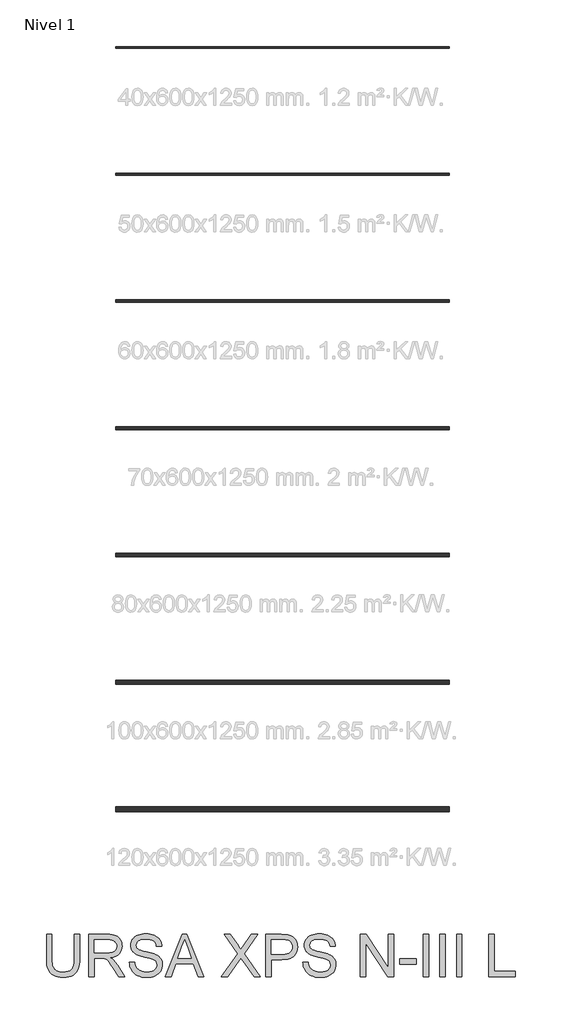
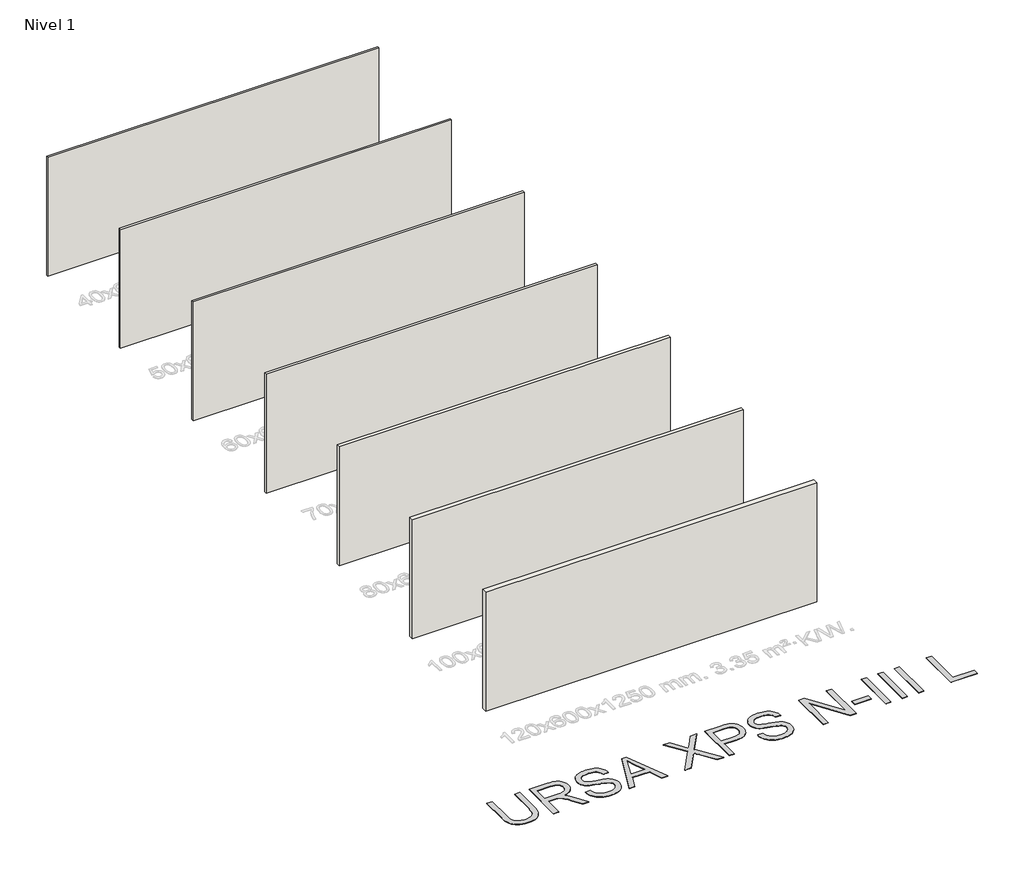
# One storey, part 1 of 8: 7 walls, 1 proxy.
"""IFC4 building model written with IfcOpenShell, lengths in millimetres."""

from ifc_helpers import new_model, si_unit, origin, origin_with_axes, place, context, project, spatial, polyline, outline, extrude, element, save

model = new_model("IFC4")

# Units and contexts
model_context = context("Model", 3, world=origin())
ifc_project = project(units=[si_unit("LENGTHUNIT", "METRE", prefix="MILLI")], contexts=[model_context])

# Site, building, storey
site = spatial("IfcSite", under=ifc_project)
building = spatial("IfcBuilding", under=site)
storey = spatial("IfcBuildingStorey", under=building, Name="Nivel 1", Elevation=0.0)

# Proxy
placement = place(None, origin())
element("IfcBuildingElementProxy", 1, Name="Texto de modelo 2", ObjectType="Texto de modelo 2", at=placement, inside=storey, context=model_context, shape_type="SweptSolid", body=[
    extrude(outline(polyline([(-7512.76778, -17041.8387308), (-7387.1973923, -17041.8387308), (-7387.1973923, -17621.3755006), (-7389.3280422, -17693.1354823), (-7395.7199918, -17757.0933), (-7406.3732413, -17813.2489537), (-7421.2877905, -17861.6024434), (-7441.7512265, -17903.985515), (-7469.0511362, -17942.229914), (-7503.1875197, -17976.3356407), (-7544.1603769, -18006.3026949), (-7592.0156931, -18030.7131981), (-7646.7994535, -18048.1492718), (-7708.5116582, -18058.6109161), (-7777.1523072, -18062.0981308), (-7844.0991661, -18059.0631043), (-7904.6540753, -18049.958025), (-7958.8170349, -18034.7828927), (-8006.5880448, -18013.5377074), (-8047.9747693, -17986.5367018), (-8082.9848725, -17954.0941084), (-8111.6183544, -17916.2099271), (-8133.8752152, -17872.8841579), (-8150.5601965, -17822.6299446), (-8162.4780403, -17763.9604305), (-8169.6287466, -17696.8756159), (-8172.0123153, -17621.3755006), (-8172.0123153, -17041.8387308), (-8046.4419276, -17041.8387308), (-8046.4419276, -17616.9609166), (-8044.8937576, -17677.66911), (-8040.2492474, -17729.8087187), (-8032.5083971, -17773.3797425), (-8021.6712066, -17808.3821815), (-8007.0632257, -17837.3452244), (-7988.0100041, -17862.7980599), (-7964.5115416, -17884.7406881), (-7936.5678384, -17903.1731089), (-7904.715389, -17917.7657614), (-7869.490688, -17928.1890846), (-7830.8937353, -17934.4430785), (-7788.924531, -17936.5277431), (-7719.7167307, -17932.4043991), (-7661.208165, -17920.034367), (-7613.3988341, -17899.4176468), (-7593.5063816, -17886.0167788), (-7576.2887378, -17870.5542386), (-7561.4010133, -17852.1601389), (-7548.4983187, -17829.9645918), (-7528.6480194, -17774.1691559), (-7516.7378398, -17703.1679308), (-7512.76778, -17616.9609166), (-7512.76778, -17041.8387308)])), origin_with_axes(), (0.0, 0.0, 1.0), 10.0),
    extrude(outline(polyline([(-7167.4492138, -18046.4018323), (-7167.4492138, -17041.8387308), (-6734.5747328, -17041.8387308), (-6672.4409967, -17043.5325209), (-6618.2320519, -17048.6138909), (-6571.9478983, -17057.082841), (-6533.5885361, -17068.9393712), (-6500.9236806, -17085.0955221), (-6471.7230473, -17106.4633347), (-6445.986636, -17133.0428088), (-6423.7144469, -17164.8339446), (-6405.7418786, -17200.1276235), (-6392.9043298, -17237.2147271), (-6385.2018005, -17276.0952555), (-6382.6342908, -17316.7692086), (-6386.8879263, -17368.3646584), (-6399.6488331, -17415.7294653), (-6420.9170109, -17458.8636292), (-6450.6924599, -17497.7671502), (-6489.3583904, -17531.1984265), (-6537.2980129, -17557.9158564), (-6594.5113274, -17577.9194399), (-6660.9983338, -17591.209177), (-6619.6116093, -17618.2485036), (-6589.6292267, -17644.9199483), (-6538.1870611, -17705.9270458), (-6487.8485414, -17774.1691559), (-6320.3396063, -18046.4018323), (-6466.266131, -18046.4018323), (-6596.9868666, -17838.1806231), (-6649.2874236, -17758.7181121), (-6691.4099121, -17700.3475022), (-6726.5119858, -17660.1563942), (-6757.7512985, -17635.2323891), (-6787.3351423, -17620.6090798), (-6817.4708091, -17611.3200594), (-6890.3114441, -17606.9054754), (-7041.8788261, -17606.9054754), (-7041.8788261, -18046.4018323), (-7167.4492138, -18046.4018323)]), holes=[polyline([(-7041.8788261, -17481.3350877), (-6760.8169818, -17481.3350877), (-6680.0975407, -17476.889847), (-6617.465631, -17463.5541246), (-6592.2810428, -17453.3300709), (-6570.315422, -17440.4388726), (-6551.5687686, -17424.8805299), (-6536.0410828, -17406.6550427), (-6523.8626559, -17386.6591234), (-6515.1637795, -17365.7894844), (-6509.9444537, -17344.0461257), (-6508.2046785, -17321.4290472), (-6511.5232806, -17289.3160147), (-6521.4790871, -17260.176695), (-6538.072098, -17234.0110881), (-6561.3023131, -17210.819194), (-6591.7062272, -17191.827286), (-6629.8203347, -17178.2616374), (-6675.6446357, -17170.1222482), (-6729.1791302, -17167.4091185), (-7041.8788261, -17167.4091185), (-7041.8788261, -17481.3350877)])]), origin_with_axes(), (0.0, 0.0, 1.0), 10.0),
    extrude(outline(polyline([(-6209.9750077, -17701.0832662), (-6084.40462, -17701.0832662), (-6078.6564638, -17737.6338753), (-6069.9959085, -17770.7662475), (-6058.4229541, -17800.4803828), (-6043.9376006, -17826.7762812), (-6025.8040839, -17850.1827732), (-6003.2866401, -17871.228689), (-5976.3852692, -17889.9140286), (-5945.0999712, -17906.2387922), (-5910.5803773, -17919.4902082), (-5873.9761188, -17928.9555054), (-5835.2871956, -17934.6346837), (-5794.5136078, -17936.5277431), (-5724.5547151, -17930.7949154), (-5692.8402214, -17923.6288807), (-5663.3023629, -17913.5964321), (-5636.6692393, -17901.0577874), (-5613.6689504, -17886.3731644), (-5594.3014962, -17869.5425632), (-5578.5668767, -17850.5659836), (-5566.3884498, -17830.263496), (-5557.6895734, -17809.4551706), (-5552.4702476, -17788.1410075), (-5550.7304724, -17766.3210067), (-5555.942134, -17724.2904887), (-5571.5771187, -17687.9621417), (-5584.7289001, -17671.8443118), (-5603.3375977, -17656.9680836), (-5627.4032115, -17643.3334572), (-5656.9257416, -17630.9404325), (-5723.2364713, -17611.2280889), (-5839.7630932, -17582.9931457), (-5959.7845942, -17551.2633237), (-6003.5855442, -17535.9732282), (-6036.5799607, -17521.0663432), (-6070.1108717, -17501.0627597), (-6099.089243, -17478.8212274), (-6123.5150746, -17454.3417463), (-6143.3883666, -17427.6243164), (-6158.7857609, -17398.9448492), (-6169.7838997, -17368.5792562), (-6176.382783, -17336.5275374), (-6178.5824108, -17302.7896928), (-6175.8616169, -17265.3960208), (-6167.6992351, -17229.2439506), (-6154.0952655, -17194.333482), (-6135.049708, -17160.6646153), (-6110.7771606, -17129.6092435), (-6081.4922209, -17102.53926), (-6047.1948891, -17079.4546648), (-6007.885165, -17060.3554579), (-5964.8889568, -17045.3872593), (-5919.5321725, -17034.6956888), (-5871.8148121, -17028.2807465), (-5821.7368755, -17026.1424324), (-5767.1063992, -17028.3803812), (-5715.7868609, -17035.0942276), (-5667.7782605, -17046.2839716), (-5623.0805981, -17061.9496132), (-5582.5216081, -17081.9531967), (-5546.9290251, -17106.1567663), (-5516.302849, -17134.560322), (-5490.6430798, -17167.1638639), (-5470.148987, -17203.01703), (-5455.0198399, -17241.1694586), (-5445.2556387, -17281.6211496), (-5440.8563831, -17324.3721031), (-5566.4267708, -17324.3721031), (-5574.826743, -17284.3036225), (-5589.4807092, -17249.4468035), (-5610.3886692, -17219.801646), (-5637.5506232, -17195.3681502), (-5671.4724089, -17176.2689432), (-5712.6598639, -17162.6266526), (-5761.1129883, -17154.4412782), (-5816.8317822, -17151.7128201), (-5874.3286724, -17154.4106214), (-5923.4562471, -17162.5040253), (-5964.2145065, -17175.9930317), (-5996.6034505, -17194.8776408), (-6021.282201, -17217.5790256), (-6038.90988, -17242.5183592), (-6049.4864873, -17269.6956416), (-6053.0120231, -17299.1108728), (-6050.5134912, -17324.4180884), (-6043.0178956, -17347.3647278), (-6030.5252361, -17367.9507911), (-6013.035513, -17386.1762783), (-5985.505677, -17403.4360753), (-5942.1569152, -17420.8798132), (-5882.9892277, -17438.5074921), (-5808.0026143, -17456.3191121), (-5669.5563568, -17489.9803146), (-5620.8426493, -17505.2014322), (-5585.8018892, -17519.3495606), (-5547.3045713, -17540.7940152), (-5514.2181843, -17564.9056143), (-5486.5427284, -17591.6843579), (-5464.2782035, -17621.1302459), (-5447.1640265, -17653.0899942), (-5434.9396144, -17687.4103187), (-5427.6049671, -17724.0912193), (-5425.1600847, -17763.1326961), (-5427.9728491, -17802.4117632), (-5436.4111424, -17840.5411992), (-5450.4749645, -17877.5210039), (-5470.1643154, -17913.3511774), (-5495.1343058, -17946.644498), (-5525.0400464, -17976.0137439), (-5559.881537, -18001.4589153), (-5599.6587777, -18022.980012), (-5643.2144731, -18040.094189), (-5689.3913277, -18052.3186011), (-5738.1893415, -18059.6532484), (-5789.6085146, -18062.0981308), (-5853.8422438, -18059.4616432), (-5912.6343851, -18051.5521803), (-5965.9849386, -18038.3697421), (-6013.8939043, -18019.9143287), (-6056.652522, -17996.1552832), (-6094.5520317, -17967.0619487), (-6127.5924334, -17932.6343253), (-6155.7737271, -17892.872413), (-6178.4751119, -17849.0637988), (-6195.0757869, -17802.4960695), (-6205.5757522, -17753.1692253), (-6209.9750077, -17701.0832662)])), origin_with_axes(), (0.0, 0.0, 1.0), 10.0),
    extrude(outline(polyline([(-5353.7909776, -18046.4018323), (-4952.7996029, -17041.8387308), (-4845.8685696, -17041.8387308), (-4444.8771949, -18046.4018323), (-4577.5599678, -18046.4018323), (-4692.5844049, -17732.4758631), (-5106.3290222, -17732.4758631), (-5221.1082047, -18046.4018323), (-5353.7909776, -18046.4018323)]), holes=[polyline([(-5060.2211455, -17606.9054754), (-4738.447027, -17606.9054754), (-4828.9459978, -17359.9340293), (-4899.3340862, -17167.4091185), (-4961.8740254, -17338.351619), (-5060.2211455, -17606.9054754)])]), origin_with_axes(), (0.0, 0.0, 1.0), 10.0),
    extrude(outline(polyline([(-4028.1895216, -18046.4018323), (-3640.9324081, -17498.9934235), (-3965.4043278, -17041.8387308), (-3814.8179644, -17041.8387308), (-3632.1032402, -17299.1108728), (-3588.5092237, -17364.2872996), (-3570.5443196, -17399.4200302), (-3498.4394486, -17297.3940902), (-3317.6867616, -17041.8387308), (-3164.8931063, -17041.8387308), (-3489.365026, -17500.4649515), (-3102.1079125, -18046.4018323), (-3252.6942758, -18046.4018323), (-3510.7021818, -17682.4439118), (-3564.4129531, -17606.9054754), (-3623.519327, -17689.8015517), (-3875.3958663, -18046.4018323), (-4028.1895216, -18046.4018323)])), origin_with_axes(), (0.0, 0.0, 1.0), 10.0),
    extrude(outline(polyline([(-2976.5375248, -18046.4018323), (-2976.5375248, -17041.8387308), (-2604.2409457, -17041.8387308), (-2517.5434221, -17044.2299638), (-2454.1450916, -17051.4036627), (-2419.2039663, -17058.9375794), (-2387.2212253, -17069.2765963), (-2358.1968688, -17082.4207134), (-2332.1308966, -17098.3699308), (-2308.7473972, -17117.4538093), (-2287.7704593, -17140.0019099), (-2269.2000828, -17166.0142326), (-2253.0362676, -17195.4907775), (-2239.9457999, -17227.45819), (-2230.5954659, -17260.9431158), (-2224.9852655, -17295.9455548), (-2223.1151986, -17332.465507), (-2228.1659119, -17394.1317265), (-2243.3180515, -17450.8621958), (-2268.5716177, -17502.656915), (-2303.9266103, -17549.5158842), (-2326.1623944, -17570.3242095), (-2352.464041, -17588.3580915), (-2382.8315501, -17603.6175301), (-2417.2649216, -17616.1025253), (-2455.7641556, -17625.8130771), (-2498.3292521, -17632.7491856), (-2595.6570324, -17638.2980724), (-2850.9671371, -17638.2980724), (-2850.9671371, -18046.4018323), (-2976.5375248, -18046.4018323)]), holes=[polyline([(-2850.9671371, -17512.7276847), (-2588.2993925, -17512.7276847), (-2527.9054317, -17509.8459424), (-2476.9537753, -17501.2007155), (-2435.4444235, -17486.792004), (-2403.3773763, -17466.6198079), (-2379.4497182, -17441.2206219), (-2362.3585338, -17411.1309403), (-2352.1038232, -17376.3507634), (-2348.6855863, -17336.880091), (-2350.7012731, -17307.5721587), (-2356.7483334, -17280.4715184), (-2366.8267672, -17255.57817), (-2380.9365746, -17232.8921137), (-2398.3266631, -17213.1491133), (-2418.2459403, -17197.0849328), (-2440.6944062, -17184.6995723), (-2465.6720608, -17175.9930317), (-2514.1098568, -17169.5550968), (-2591.2424485, -17167.4091185), (-2850.9671371, -17167.4091185), (-2850.9671371, -17512.7276847)])]), origin_with_axes(), (0.0, 0.0, 1.0), 10.0),
    extrude(outline(polyline([(-2097.544811, -17701.0832662), (-1971.9744233, -17701.0832662), (-1966.2262671, -17737.6338753), (-1957.5657118, -17770.7662475), (-1945.9927574, -17800.4803828), (-1931.5074038, -17826.7762812), (-1913.3738871, -17850.1827732), (-1890.8564433, -17871.228689), (-1863.9550724, -17889.9140286), (-1832.6697744, -17906.2387922), (-1798.1501806, -17919.4902082), (-1761.545922, -17928.9555054), (-1722.8569989, -17934.6346837), (-1682.0834111, -17936.5277431), (-1612.1245183, -17930.7949154), (-1580.4100247, -17923.6288807), (-1550.8721661, -17913.5964321), (-1524.2390425, -17901.0577874), (-1501.2387536, -17886.3731644), (-1481.8712994, -17869.5425632), (-1466.1366799, -17850.5659836), (-1453.958253, -17830.263496), (-1445.2593767, -17809.4551706), (-1440.0400509, -17788.1410075), (-1438.3002756, -17766.3210067), (-1443.5119372, -17724.2904887), (-1459.146922, -17687.9621417), (-1472.2987033, -17671.8443118), (-1490.9074009, -17656.9680836), (-1514.9730148, -17643.3334572), (-1544.4955449, -17630.9404325), (-1610.8062745, -17611.2280889), (-1727.3328965, -17582.9931457), (-1847.3543974, -17551.2633237), (-1891.1553475, -17535.9732282), (-1924.1497639, -17521.0663432), (-1957.6806749, -17501.0627597), (-1986.6590462, -17478.8212274), (-2011.0848779, -17454.3417463), (-2030.9581698, -17427.6243164), (-2046.3555642, -17398.9448492), (-2057.353703, -17368.5792562), (-2063.9525863, -17336.5275374), (-2066.152214, -17302.7896928), (-2063.4314201, -17265.3960208), (-2055.2690383, -17229.2439506), (-2041.6650687, -17194.333482), (-2022.6195113, -17160.6646153), (-1998.3469638, -17129.6092435), (-1969.0620241, -17102.53926), (-1934.7646923, -17079.4546648), (-1895.4549683, -17060.3554579), (-1852.4587601, -17045.3872593), (-1807.1019758, -17034.6956888), (-1759.3846153, -17028.2807465), (-1709.3066787, -17026.1424324), (-1654.6762024, -17028.3803812), (-1603.3566641, -17035.0942276), (-1555.3480637, -17046.2839716), (-1510.6504013, -17061.9496132), (-1470.0914114, -17081.9531967), (-1434.4988283, -17106.1567663), (-1403.8726522, -17134.560322), (-1378.2128831, -17167.1638639), (-1357.7187902, -17203.01703), (-1342.5896432, -17241.1694586), (-1332.8254419, -17281.6211496), (-1328.4261864, -17324.3721031), (-1453.9965741, -17324.3721031), (-1462.3965463, -17284.3036225), (-1477.0505124, -17249.4468035), (-1497.9584725, -17219.801646), (-1525.1204265, -17195.3681502), (-1559.0422121, -17176.2689432), (-1600.2296671, -17162.6266526), (-1648.6827916, -17154.4412782), (-1704.4015854, -17151.7128201), (-1761.8984756, -17154.4106214), (-1811.0260504, -17162.5040253), (-1851.7843098, -17175.9930317), (-1884.1732538, -17194.8776408), (-1908.8520043, -17217.5790256), (-1926.4796832, -17242.5183592), (-1937.0562906, -17269.6956416), (-1940.5818264, -17299.1108728), (-1938.0832945, -17324.4180884), (-1930.5876988, -17347.3647278), (-1918.0950394, -17367.9507911), (-1900.6053162, -17386.1762783), (-1873.0754802, -17403.4360753), (-1829.7267185, -17420.8798132), (-1770.5590309, -17438.5074921), (-1695.5724176, -17456.3191121), (-1557.12616, -17489.9803146), (-1508.4124525, -17505.2014322), (-1473.3716925, -17519.3495606), (-1434.8743745, -17540.7940152), (-1401.7879876, -17564.9056143), (-1374.1125317, -17591.6843579), (-1351.8480067, -17621.1302459), (-1334.7338298, -17653.0899942), (-1322.5094176, -17687.4103187), (-1315.1747703, -17724.0912193), (-1312.7298879, -17763.1326961), (-1315.5426523, -17802.4117632), (-1323.9809456, -17840.5411992), (-1338.0447677, -17877.5210039), (-1357.7341187, -17913.3511774), (-1382.7041091, -17946.644498), (-1412.6098496, -17976.0137439), (-1447.4513402, -18001.4589153), (-1487.228581, -18022.980012), (-1530.7842763, -18040.094189), (-1576.961131, -18052.3186011), (-1625.7591448, -18059.6532484), (-1677.1783178, -18062.0981308), (-1741.412047, -18059.4616432), (-1800.2041884, -18051.5521803), (-1853.5547419, -18038.3697421), (-1901.4637075, -18019.9143287), (-1944.2223253, -17996.1552832), (-1982.121835, -17967.0619487), (-2015.1622367, -17932.6343253), (-2043.3435303, -17892.872413), (-2066.0449151, -17849.0637988), (-2082.6455902, -17802.4960695), (-2093.1455554, -17753.1692253), (-2097.544811, -17701.0832662)])), origin_with_axes(), (0.0, 0.0, 1.0), 10.0),
    extrude(outline(polyline([(-731.9668449, -18046.4018323), (-731.9668449, -17041.8387308), (-597.5672893, -17041.8387308), (-72.7223095, -17837.6901137), (-72.7223095, -17041.8387308), (52.8480782, -17041.8387308), (52.8480782, -18046.4018323), (-81.5514774, -18046.4018323), (-606.3964572, -17250.3051948), (-606.3964572, -18046.4018323), (-731.9668449, -18046.4018323)])), origin_with_axes(), (0.0, 0.0, 1.0), 10.0),
    extrude(outline(polyline([(194.1147643, -17748.1721616), (194.1147643, -17622.6017739), (586.5222258, -17622.6017739), (586.5222258, -17748.1721616), (194.1147643, -17748.1721616)])), origin_with_axes(), (0.0, 0.0, 1.0), 10.0),
    extrude(outline(polyline([(759.1815089, -18046.4018323), (759.1815089, -17041.8387308), (884.7518966, -17041.8387308), (884.7518966, -18046.4018323), (759.1815089, -18046.4018323)])), origin_with_axes(), (0.0, 0.0, 1.0), 10.0),
    extrude(outline(polyline([(1151.5889704, -18046.4018323), (1151.5889704, -17041.8387308), (1277.1593581, -17041.8387308), (1277.1593581, -18046.4018323), (1151.5889704, -18046.4018323)])), origin_with_axes(), (0.0, 0.0, 1.0), 10.0),
    extrude(outline(polyline([(1543.996432, -18046.4018323), (1543.996432, -17041.8387308), (1669.5668196, -17041.8387308), (1669.5668196, -18046.4018323), (1543.996432, -18046.4018323)])), origin_with_axes(), (0.0, 0.0, 1.0), 10.0),
    extrude(outline(polyline([(2313.1150565, -18046.4018323), (2313.1150565, -17041.8387308), (2438.6854442, -17041.8387308), (2438.6854442, -17920.8314446), (2940.966995, -17920.8314446), (2940.966995, -18046.4018323), (2313.1150565, -18046.4018323)])), origin_with_axes(), (0.0, 0.0, 1.0), 10.0),
])

# Walls
element("IfcWall", 2, ObjectType="Panel de poliestireno extruido, URSA XPS N-III L de URSA. 40x600x1250 mm. 1.2 m²·K/W. De superficie lisa y mecanizado lateral a media madera. En panel.", at=placement, inside=storey, context=model_context, shape_type="SweptSolid", body=[
    extrude(outline(polyline([(1368.7582768, 3960.3831431), (-6531.2417232, 3960.3831431), (-6531.2417232, 4000.3831431), (1368.7582768, 4000.3831431), (1368.7582768, 3960.3831431)])), origin_with_axes(), (0.0, 0.0, 1.0), 3000.0),
])
element("IfcWall", 3, ObjectType="Panel de poliestireno extruido, URSA XPS N-III L de URSA. 50x600x1250 mm. 1.5 m²·K/W. De superficie lisa y mecanizado lateral a media madera. En panel.", at=placement, inside=storey, context=model_context, shape_type="SweptSolid", body=[
    extrude(outline(polyline([(1368.7582768, 950.3831431), (-6531.2417232, 950.3831431), (-6531.2417232, 1000.3831431), (1368.7582768, 1000.3831431), (1368.7582768, 950.3831431)])), origin_with_axes(), (0.0, 0.0, 1.0), 3000.0),
])
element("IfcWall", 4, ObjectType="Panel de poliestireno extruido, URSA XPS N-III L de URSA. 60x600x1250 mm. 1.8 m²·K/W. De superficie lisa y mecanizado lateral a media madera. En panel.", at=placement, inside=storey, context=model_context, shape_type="SweptSolid", body=[
    extrude(outline(polyline([(1368.7582768, -2063.6168569), (-6531.2417232, -2063.6168569), (-6531.2417232, -2003.6168569), (1368.7582768, -2003.6168569), (1368.7582768, -2063.6168569)])), origin_with_axes(), (0.0, 0.0, 1.0), 3000.0),
])
element("IfcWall", 5, ObjectType="Panel de poliestireno extruido, URSA XPS N-III L de URSA. 70x600x1250 mm. 2 m²·K/W. De superficie lisa y mecanizado lateral a media madera. En panel.", at=placement, inside=storey, context=model_context, shape_type="SweptSolid", body=[
    extrude(outline(polyline([(1368.7582768, -5077.6168569), (-6531.2417232, -5077.6168569), (-6531.2417232, -5007.6168569), (1368.7582768, -5007.6168569), (1368.7582768, -5077.6168569)])), origin_with_axes(), (0.0, 0.0, 1.0), 3000.0),
])
element("IfcWall", 6, ObjectType="Panel de poliestireno extruido, URSA XPS N-III L de URSA. 80x600x1250 mm. 2.25 m²·K/W. De superficie lisa y mecanizado lateral a media madera. En panel.", at=placement, inside=storey, context=model_context, shape_type="SweptSolid", body=[
    extrude(outline(polyline([(1368.7582768, -8091.6168569), (-6531.2417232, -8091.6168569), (-6531.2417232, -8011.6168569), (1368.7582768, -8011.6168569), (1368.7582768, -8091.6168569)])), origin_with_axes(), (0.0, 0.0, 1.0), 3000.0),
])
element("IfcWall", 7, ObjectType="Panel de poliestireno extruido, URSA XPS N-III L de URSA. 100x600x1250 mm. 2.85 m²·K/W. De superficie lisa y mecanizado lateral a media madera. En panel.", at=placement, inside=storey, context=model_context, shape_type="SweptSolid", body=[
    extrude(outline(polyline([(1368.7582768, -11115.6168569), (-6531.2417232, -11115.6168569), (-6531.2417232, -11015.6168569), (1368.7582768, -11015.6168569), (1368.7582768, -11115.6168569)])), origin_with_axes(), (0.0, 0.0, 1.0), 3000.0),
])
element("IfcWall", 8, ObjectType="Panel de poliestireno extruido, URSA XPS N-III L de URSA. 120x600x1250 mm. 3.35 m²·K/W. De superficie lisa y mecanizado lateral a media madera. En panel.", at=placement, inside=storey, context=model_context, shape_type="SweptSolid", body=[
    extrude(outline(polyline([(1368.7582768, -14139.6168569), (-6531.2417232, -14139.6168569), (-6531.2417232, -14019.6168569), (1368.7582768, -14019.6168569), (1368.7582768, -14139.6168569)])), origin_with_axes(), (0.0, 0.0, 1.0), 3000.0),
])

save(model, "model.ifc")
